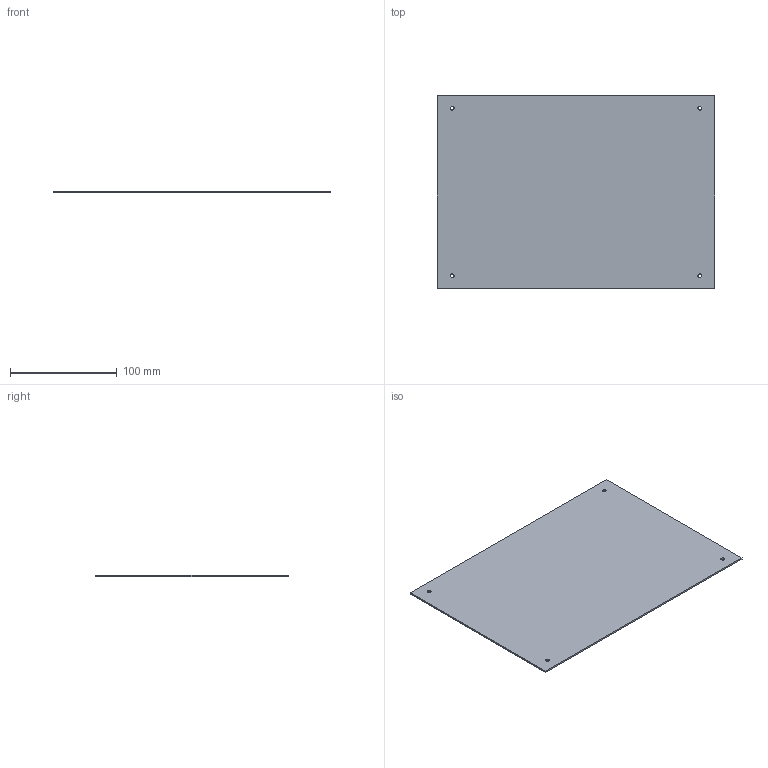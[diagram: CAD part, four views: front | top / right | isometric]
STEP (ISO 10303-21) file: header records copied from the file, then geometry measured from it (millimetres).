
FILE_DESCRIPTION(('Open CASCADE Model'),'2;1');
FILE_NAME('Open CASCADE Shape Model','2026-10-28T07:21:43',('Author'),( 'Open CASCADE'),'Open CASCADE STEP processor 7.8','Open CASCADE 7.8' ,'Unknown');
FILE_SCHEMA(('AUTOMOTIVE_DESIGN { 1 0 10303 214 1 1 1 1 }'));
Length unit declared in the file: millimetre
Products named in the file (1): Open CASCADE STEP translator 7.8 16
Bounding box: 260 x 180 x 1.5 mm (x, y, z)
Volume: 70145.5 mm3; surface area: 94911.5 mm2
Topology: 1 solids, 1 shells, 10 faces, 24 edges, 16 vertices
Faces by surface type: plane 6, cylinder 4
Full cylindrical faces by diameter (mm): 3.4 x4
Entity records: 634 total; most frequent: DIRECTION 102, CARTESIAN_POINT 99, LINE 56, VECTOR 56, ORIENTED_EDGE 48, PCURVE 48, DEFINITIONAL_REPRESENTATION 48, EDGE_CURVE 24
